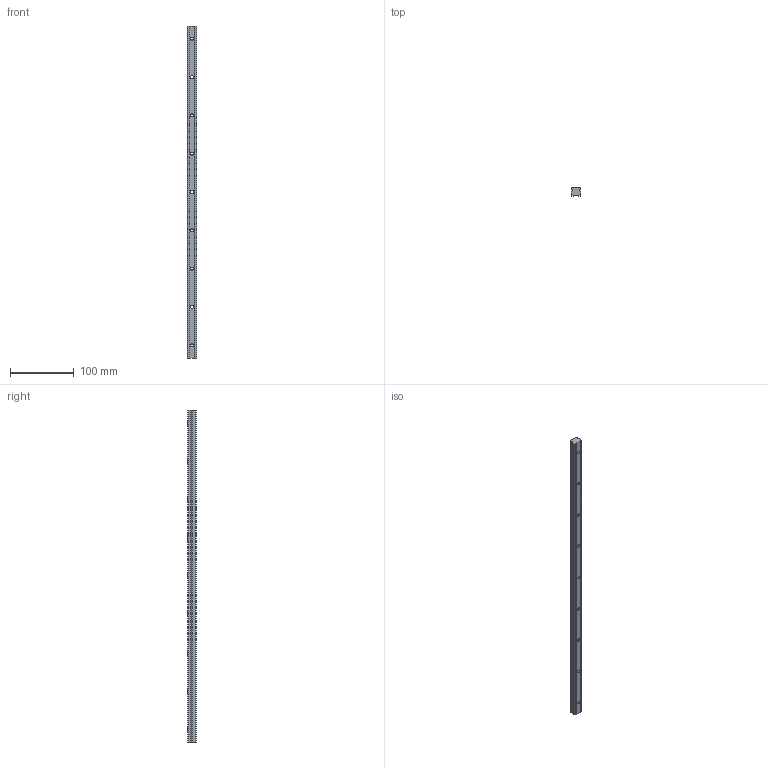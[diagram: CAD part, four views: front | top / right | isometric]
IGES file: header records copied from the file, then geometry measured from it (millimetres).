
Start section: SolidWorks IGES file using analytic representation for surfaces
Global section: file name: C:\Users\IanO\Desktop\L1016_v2\L1016.BL15_v2\L1016.BL15_v2_20190611_IGES\L1016.BL15-0520.igs; native system: SolidWorks 2017; preprocessor: SolidWorks 2017; author: IanO; date: 190612.122556; units: millimetre
Bounding box: 15 x 13 x 520 mm (x, y, z)
Surface area: 32102.1 mm2 (no closed solid volume)
Topology: 0 solids, 0 shells, 71 faces, 1448 edges, 1448 vertices
Faces by surface type: revolution 40, bspline 31
